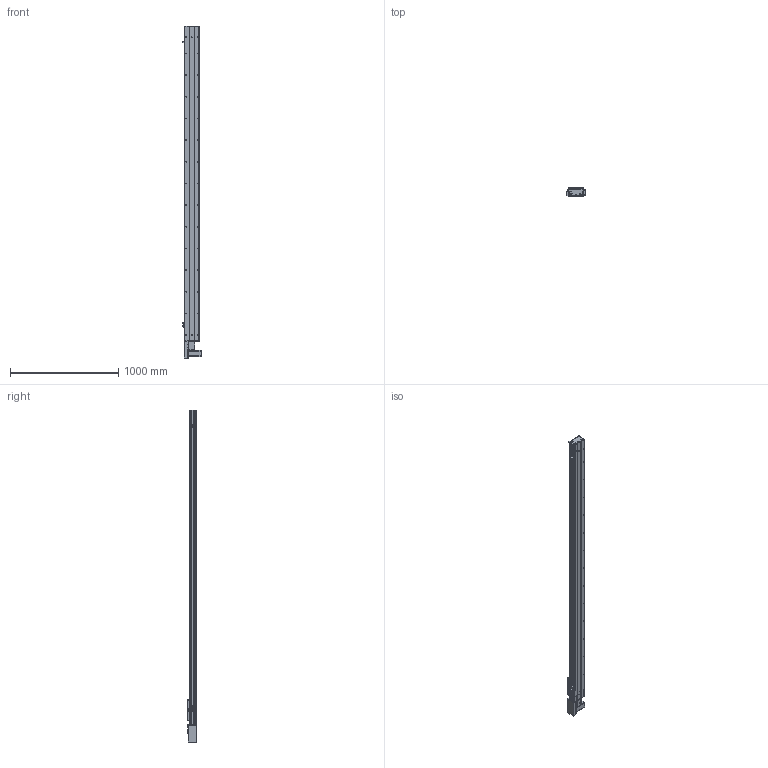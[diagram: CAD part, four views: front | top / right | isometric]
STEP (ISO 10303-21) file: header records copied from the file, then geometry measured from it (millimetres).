
FILE_DESCRIPTION (( 'STEP AP203' ), '1' );
FILE_NAME ('Y135CB-D90-S2600-BR-P400W.STEP', '2020-02-18T03:11:47', ( '微软用户' ), ( '微软中国' ), 'SwSTEP 2.0', 'SolidWorks 2017', '' );
FILE_SCHEMA (( 'CONFIG_CONTROL_DESIGN' ));
Length unit declared in the file: millimetre
Products named in the file (18): Y135C-陔俋离換覜結え-; 0B-埴倛裔啣; 5C--俋欶; 0B-源倛裔啣; C-雄赽釱--; 0B-萇儂楊擘啣; Y10B--々湍喘謫眊--666; san松下电机400不带刹车----; Y135CB-耜裔; Y135CB-D90-S2600-BR-P400W; 5CB --掛极耜裔啣-; 135CB---遴掛极.-; C-詩湍揤踡え-陔; 35CB---喘謫眊楊擘啣; 135CB--詩湍-CE; Y10B-耜蚾蟀諉啣----; Y100-135俋离換覜ん--; Y俋欶BR----
Assembly tree (21 placements, depth 2):
  Y135CB-D90-S2600-BR-P400W
    Y135CB-耜裔
    135CB---遴掛极.-
    35CB---喘謫眊楊擘啣
    Y10B-耜蚾蟀諉啣----
    Y俋欶BR----
    0B-埴倛裔啣
    0B-源倛裔啣
    0B-萇儂楊擘啣
    san松下电机400不带刹车----
    5CB --掛极耜裔啣-  x2
    C-詩湍揤踡え-陔  x2
    135CB--詩湍-CE
    Y100-135俋离換覜ん--  x3
    Y135C-陔俋离換覜結え-
    5C--俋欶
    C-雄赽釱--
    Y10B--々湍喘謫眊--666
Bounding box: 167.5 x 91 x 3064.5 mm (x, y, z)
Volume: 8542360.3 mm3; surface area: 3385361.1 mm2
Topology: 21 solids, 21 shells, 977 faces, 2671 edges, 1770 vertices
Faces by surface type: cylinder 503, plane 458, cone 16
Entity records: 30957 total; most frequent: CARTESIAN_POINT 5164, DIRECTION 5143, ORIENTED_EDGE 4818, EDGE_CURVE 2409, AXIS2_PLACEMENT_3D 1885, VERTEX_POINT 1598, VECTOR 1373, LINE 1373
